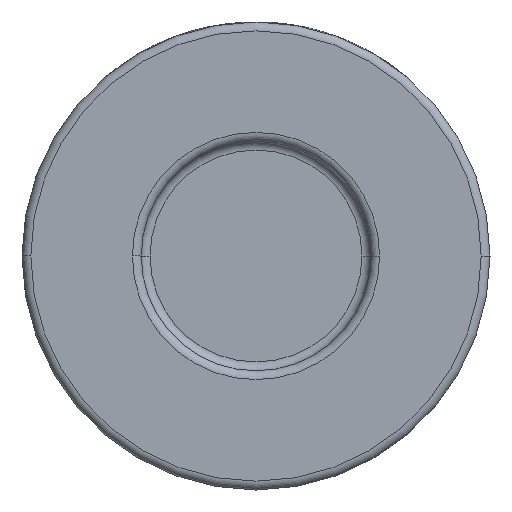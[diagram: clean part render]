
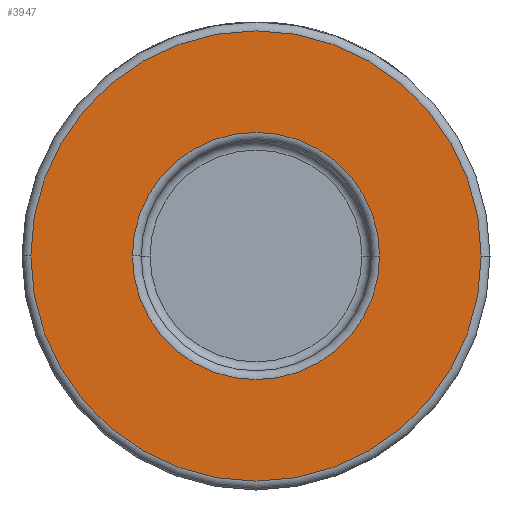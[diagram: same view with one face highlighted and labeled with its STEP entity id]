
A CAD part, front view. The second image highlights one B-rep face of the part: STEP entity #3947.
In plain terms, the highlighted planar face has unit normal (0, -1, 0).
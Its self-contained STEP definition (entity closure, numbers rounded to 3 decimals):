
#178 = AXIS2_PLACEMENT_3D ( 'NONE', #506, #2201, #458 ) ;
#254 = CIRCLE ( 'NONE', #178, 14. ) ;
#294 = CARTESIAN_POINT ( 'NONE',  ( 0., -19., 0. ) ) ;
#315 = VERTEX_POINT ( 'NONE', #3133 ) ;
#333 = AXIS2_PLACEMENT_3D ( 'NONE', #1844, #3939, #2487 ) ;
#442 = EDGE_LOOP ( 'NONE', ( #1400, #1994 ) ) ;
#458 = DIRECTION ( 'NONE',  ( 1., 0., 0. ) ) ;
#503 = CARTESIAN_POINT ( 'NONE',  ( 0., -19., 0. ) ) ;
#506 = CARTESIAN_POINT ( 'NONE',  ( 0., -19., 0. ) ) ;
#612 = CIRCLE ( 'NONE', #3107, 25.5 ) ;
#738 = CARTESIAN_POINT ( 'NONE',  ( 25.5, -19., 0. ) ) ;
#772 = CIRCLE ( 'NONE', #1796, 25.5 ) ;
#797 = CARTESIAN_POINT ( 'NONE',  ( 14., -19., 0. ) ) ;
#907 = ORIENTED_EDGE ( 'NONE', *, *, #2842, .T. ) ;
#1061 = AXIS2_PLACEMENT_3D ( 'NONE', #1516, #4317, #3631 ) ;
#1400 = ORIENTED_EDGE ( 'NONE', *, *, #4063, .T. ) ;
#1516 = CARTESIAN_POINT ( 'NONE',  ( 26.5, -19., 0. ) ) ;
#1584 = DIRECTION ( 'NONE',  ( 1., 0., 0. ) ) ;
#1796 = AXIS2_PLACEMENT_3D ( 'NONE', #503, #2565, #1584 ) ;
#1840 = VERTEX_POINT ( 'NONE', #1946 ) ;
#1844 = CARTESIAN_POINT ( 'NONE',  ( 0., -19., 0. ) ) ;
#1946 = CARTESIAN_POINT ( 'NONE',  ( -25.5, -19., 0. ) ) ;
#1994 = ORIENTED_EDGE ( 'NONE', *, *, #2046, .T. ) ;
#2046 = EDGE_CURVE ( 'NONE', #1840, #3155, #612, .T. ) ;
#2069 = EDGE_LOOP ( 'NONE', ( #2367, #907 ) ) ;
#2201 = DIRECTION ( 'NONE',  ( 0., 1., 0. ) ) ;
#2221 = PLANE ( 'NONE',  #1061 ) ;
#2367 = ORIENTED_EDGE ( 'NONE', *, *, #4239, .T. ) ;
#2487 = DIRECTION ( 'NONE',  ( 1., 0., 0. ) ) ;
#2565 = DIRECTION ( 'NONE',  ( 0., -1., 0. ) ) ;
#2745 = DIRECTION ( 'NONE',  ( 1., 0., 0. ) ) ;
#2842 = EDGE_CURVE ( 'NONE', #315, #3521, #254, .T. ) ;
#3069 = FACE_BOUND ( 'NONE', #2069, .T. ) ;
#3107 = AXIS2_PLACEMENT_3D ( 'NONE', #294, #4218, #2745 ) ;
#3133 = CARTESIAN_POINT ( 'NONE',  ( -14., -19., 0. ) ) ;
#3155 = VERTEX_POINT ( 'NONE', #738 ) ;
#3521 = VERTEX_POINT ( 'NONE', #797 ) ;
#3631 = DIRECTION ( 'NONE',  ( 1., 0., 0. ) ) ;
#3939 = DIRECTION ( 'NONE',  ( 0., 1., 0. ) ) ;
#3947 = ADVANCED_FACE ( 'NONE', ( #3069, #4361 ), #2221, .T. ) ;
#4063 = EDGE_CURVE ( 'NONE', #3155, #1840, #772, .T. ) ;
#4078 = CIRCLE ( 'NONE', #333, 14. ) ;
#4218 = DIRECTION ( 'NONE',  ( 0., -1., 0. ) ) ;
#4239 = EDGE_CURVE ( 'NONE', #3521, #315, #4078, .T. ) ;
#4317 = DIRECTION ( 'NONE',  ( 0., -1., 0. ) ) ;
#4361 = FACE_OUTER_BOUND ( 'NONE', #442, .T. ) ;
